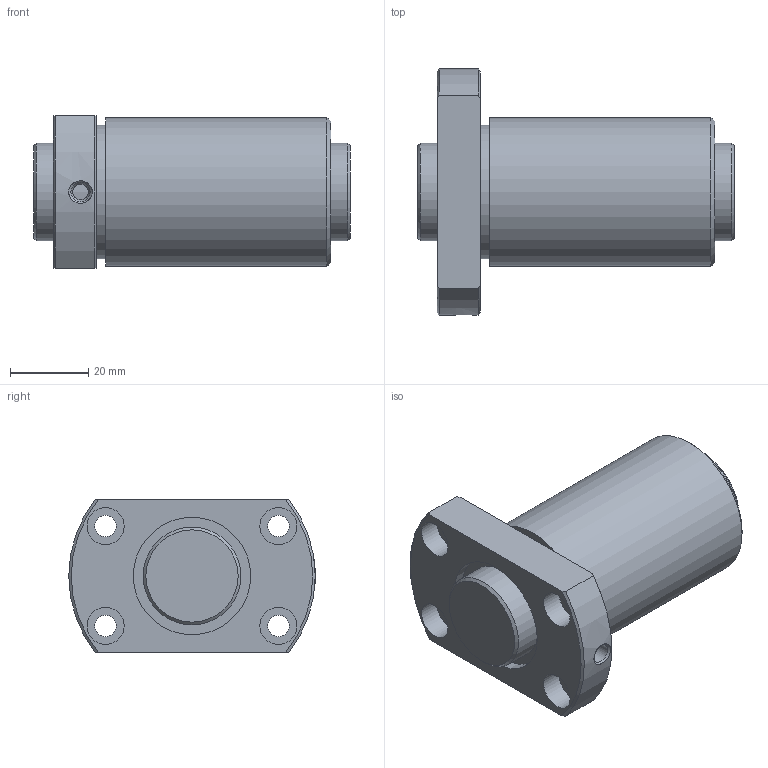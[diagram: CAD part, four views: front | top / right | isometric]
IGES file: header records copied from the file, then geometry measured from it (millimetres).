
Start section: Data from Parasolid IGES Translator 26.0.171, Copyright(c) 2006 Siemens PLM Software. All Rights Reserved.
Global section: file name: DIK2504-8RRG0+81LC0_000.igs; native system: By Siemens PLM Incorporated; preprocessor: XPlus GENERIC/IGES 26.0.171; author: Noname; organization: Noname; date: 20250113.094713; units: millimetre
Bounding box: 81 x 63 x 39 mm (x, y, z)
Surface area: 27058.1 mm2 (no closed solid volume)
Topology: 0 solids, 0 shells, 41 faces, 166 edges, 132 vertices
Faces by surface type: revolution 27, extrusion 14
